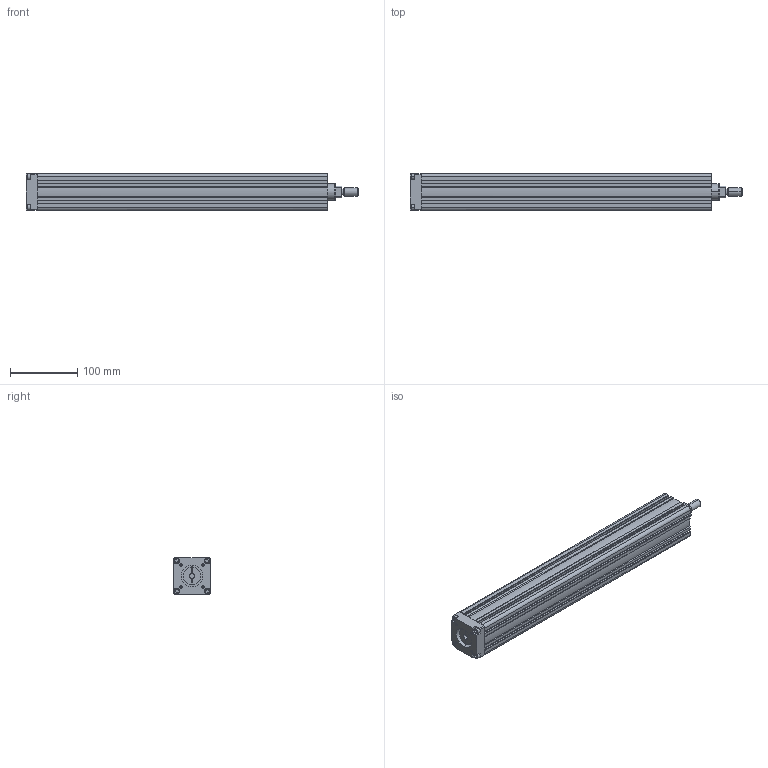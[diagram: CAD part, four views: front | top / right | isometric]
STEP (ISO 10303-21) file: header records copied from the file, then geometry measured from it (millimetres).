
FILE_DESCRIPTION (( 'STEP AP203' ), '1' );
FILE_NAME ('RD-55T-300.STEP', '2010-06-14T17:42:55', ( 'render' ), ( '' ), 'SwSTEP 2.0', 'SolidWorks 2009', '' );
FILE_SCHEMA (( 'CONFIG_CONTROL_DESIGN' ));
Length unit declared in the file: millimetre
Products named in the file (1): RD-55T-300
Bounding box: 495 x 55 x 55 mm (x, y, z)
Volume: 1200996.4 mm3; surface area: 215669.3 mm2
Topology: 2 solids, 2 shells, 383 faces, 979 edges, 616 vertices
Faces by surface type: plane 230, cylinder 101, cone 44, bspline 8
Entity records: 11676 total; most frequent: CARTESIAN_POINT 2234, DIRECTION 1967, ORIENTED_EDGE 1942, EDGE_CURVE 971, LINE 689, VECTOR 689, AXIS2_PLACEMENT_3D 639, VERTEX_POINT 616
